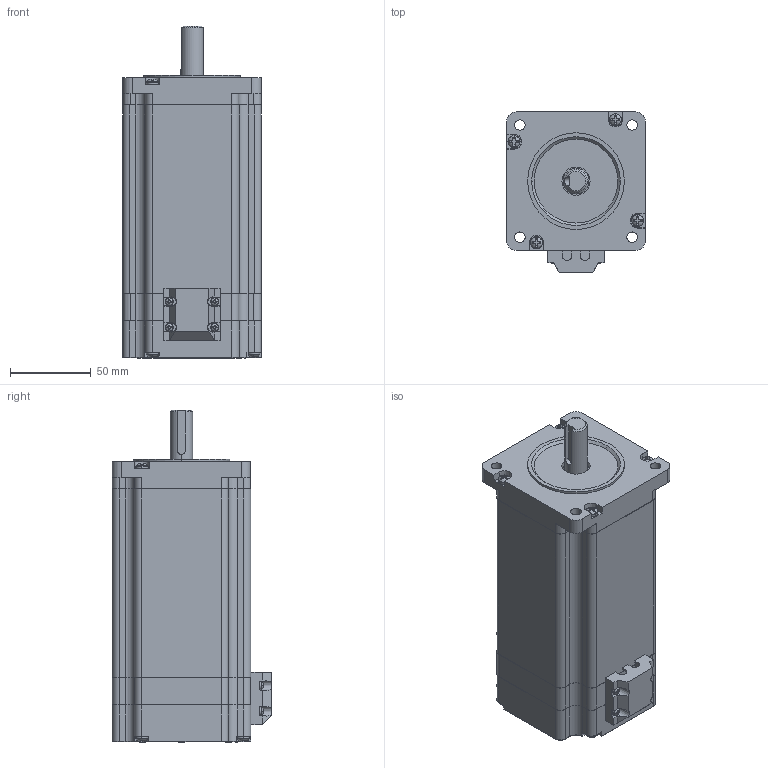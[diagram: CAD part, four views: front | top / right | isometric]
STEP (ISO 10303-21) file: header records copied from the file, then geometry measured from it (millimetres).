
FILE_DESCRIPTION (( 'STEP AP214' ), '1' );
FILE_NAME ('LS86E125-K4J60.STEP', '2019-11-26T13:23:19', ( '' ), ( '' ), 'SwSTEP 2.0', 'SolidWorks 2018', '' );
FILE_SCHEMA (( 'AUTOMOTIVE_DESIGN' ));
Length unit declared in the file: millimetre
Products named in the file (1): LS86E125-K4J60
Bounding box: 86 x 99.2 x 206 mm (x, y, z)
Volume: 639472.3 mm3; surface area: 145197 mm2
Topology: 1 solids, 1 shells, 5937 faces, 17161 edges, 11416 vertices
Faces by surface type: plane 5607, cylinder 260, torus 32, sphere 24, cone 14
Entity records: 195092 total; most frequent: CARTESIAN_POINT 34959, ORIENTED_EDGE 34322, DIRECTION 29741, EDGE_CURVE 17161, LINE 16257, VECTOR 16257, VERTEX_POINT 11416, AXIS2_PLACEMENT_3D 6742
